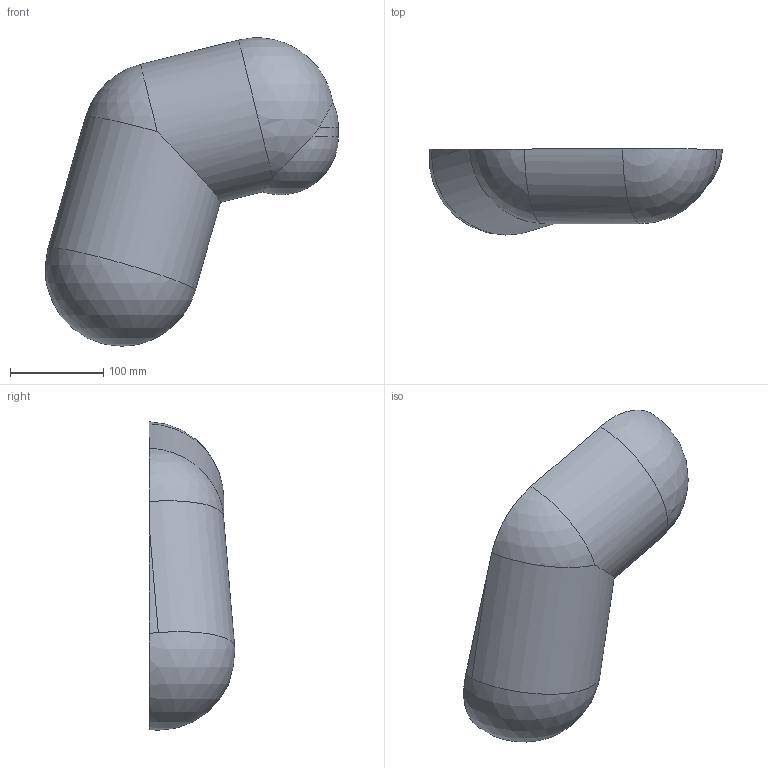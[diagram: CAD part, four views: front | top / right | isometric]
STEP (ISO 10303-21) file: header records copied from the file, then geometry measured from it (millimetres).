
FILE_DESCRIPTION(('Open CASCADE Model'),'2;1');
FILE_NAME('Open CASCADE Shape Model','2026-11-10T19:16:46',('Author'),( 'Open CASCADE'),'Open CASCADE STEP processor 8.0','Open CASCADE 8.0' ,'Unknown');
FILE_SCHEMA(('AUTOMOTIVE_DESIGN { 1 0 10303 214 1 1 1 1 }'));
Length unit declared in the file: millimetre
Products named in the file (1): Open CASCADE STEP translator 8.0 7
Bounding box: 313.23 x 91.67 x 329.97 mm (x, y, z)
Volume: 218125.6 mm3; surface area: 220187.7 mm2
Topology: 1 solids, 1 shells, 19 faces, 54 edges, 36 vertices
Faces by surface type: sphere 10, cylinder 8, plane 1
Entity records: 4087 total; most frequent: CARTESIAN_POINT 3103, DIRECTION 172, ORIENTED_EDGE 104, PCURVE 104, DEFINITIONAL_REPRESENTATION 104, B_SPLINE_CURVE_WITH_KNOTS 64, AXIS2_PLACEMENT_3D 60, EDGE_CURVE 52
